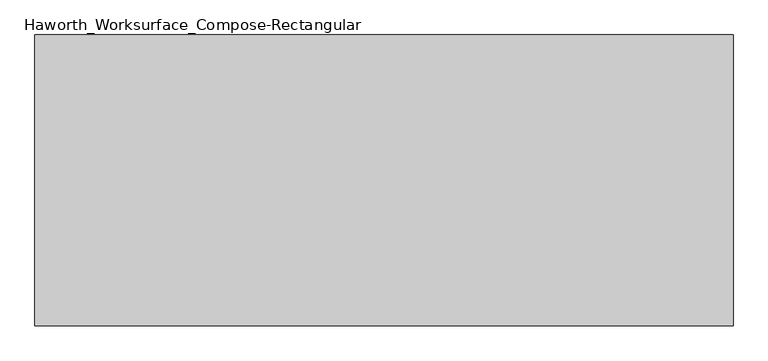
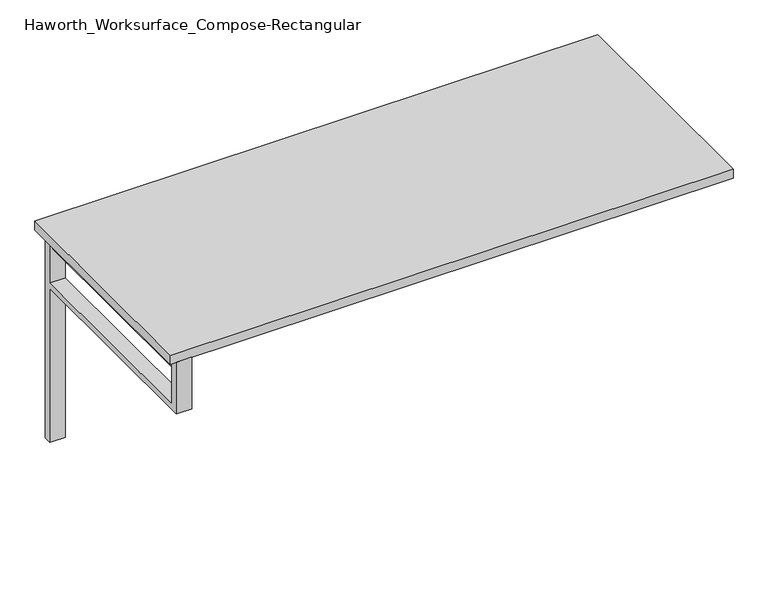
"""IFC4 building model written with IfcOpenShell, lengths in millimetres: furniture geometry, Haworth_Worksurface_Compose-Rectangular : 30'' x 72''."""

from ifc_helpers import new_model, si_unit, frame, origin, place, context, project, spatial, polyline, outline, extrude, source, transform, mapped, element, save


def haworth_worksurface_compose_rectangular_7fee4319(model_context):
    return source(origin(), model_context, "Body", "SweptSolid", [
        extrude(outline(polyline([(-854.075, -355.6), (-885.825, -355.6), (-885.825, 330.2), (-854.075, 330.2), (-854.075, -355.6)])), frame((0.0, 0.0, 661.9875), z_axis=(0.0, 0.0, 1.0), x_axis=(1.0, 0.0, 0.0)), (0.0, 0.0, 1.0), 44.45),
        extrude(outline(polyline([(330.2, 528.6375), (-381.0, 528.6375), (-381.0, 706.4375), (-355.6, 706.4375), (-355.6, 547.6875), (330.2, 547.6875), (330.2, 706.4375), (355.6, 706.4375), (355.6, 0.0), (330.2, 0.0), (330.2, 528.6375)])), frame((-895.35, 0.0, 0.0), z_axis=(1.0, 0.0, 0.0), x_axis=(0.0, 1.0, 0.0)), (0.0, 0.0, 1.0), 50.8),
        extrude(outline(polyline([(914.4, -381.0), (-914.4, -381.0), (-914.4, 381.0), (914.4, 381.0), (914.4, -381.0)])), frame((0.0, 0.0, 706.4375), z_axis=(0.0, 0.0, 1.0), x_axis=(1.0, 0.0, 0.0)), (0.0, 0.0, 1.0), 30.1625),
    ])


if __name__ == "__main__":
    model = new_model("IFC4")
    model_context = context("Model", 3, world=origin())
    ifc_project = project(units=[si_unit("LENGTHUNIT", "METRE", prefix="MILLI")], contexts=[model_context])
    site = spatial("IfcSite", under=ifc_project)
    building = spatial("IfcBuilding", under=site)
    placement = place(None, origin())
    haworth_worksurface_compose_rectangular_shape = haworth_worksurface_compose_rectangular_7fee4319(model_context)
    element("IfcFurniture", 1, ObjectType="Haworth_Worksurface_Compose-Rectangular : 30'' x 72''", at=placement, inside=building, context=model_context, shape_type="MappedRepresentation", body=[
        mapped(haworth_worksurface_compose_rectangular_shape, transform((0.0, 0.0, 0.0), x_axis=(1.0, 0.0, 0.0), y_axis=(0.0, 1.0, 0.0), z_axis=(0.0, 0.0, 1.0))),
    ])
    save(model, "model.ifc")
